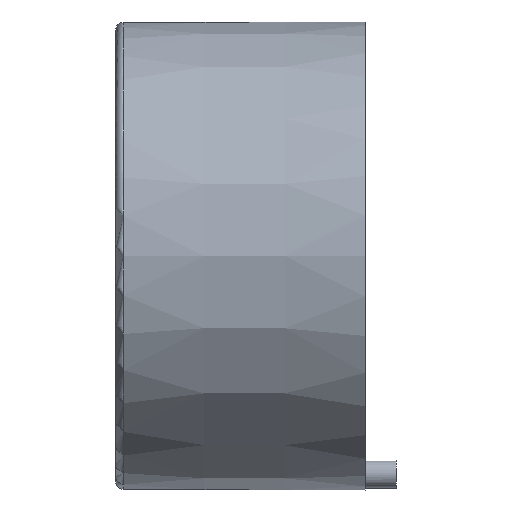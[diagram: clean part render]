
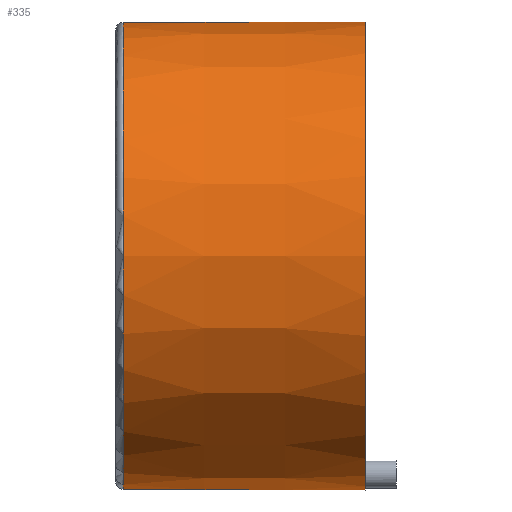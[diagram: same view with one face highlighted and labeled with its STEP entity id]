
A CAD part, front view. The second image highlights one B-rep face of the part: STEP entity #335.
In plain terms, the highlighted conical face has half-angle 0.1 degrees and reference radius 14.973 mm.
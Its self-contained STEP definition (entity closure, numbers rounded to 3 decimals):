
#248=CARTESIAN_POINT('',(0.499,0.,0.0));
#249=DIRECTION('',(1.0,0.,0.0));
#250=DIRECTION('',(0.0,1.0,0.0));
#251=AXIS2_PLACEMENT_3D('',#248,#249,#250);
#252=CONICAL_SURFACE('',#251,14.973,0.1);
#253=CARTESIAN_POINT('',(0.499,14.94,-1.0));
#254=VERTEX_POINT('',#253);
#255=CARTESIAN_POINT('',(0.499,14.94,1.));
#256=VERTEX_POINT('',#255);
#257=CARTESIAN_POINT('',(0.499,0.,0.0));
#258=DIRECTION('',(-1.0,0.0,0.0));
#259=DIRECTION('',(0.0,1.0,0.0));
#260=AXIS2_PLACEMENT_3D('',#257,#258,#259);
#261=CIRCLE('',#260,14.973);
#262=EDGE_CURVE('',#254,#256,#261,.T.);
#263=ORIENTED_EDGE('',*,*,#262,.F.);
#264=CARTESIAN_POINT('',(4.,14.946,-1.));
#265=VERTEX_POINT('',#264);
#266=CARTESIAN_POINT('',(4.,14.946,-1.));
#267=CARTESIAN_POINT('',(2.249,14.943,-1.));
#268=CARTESIAN_POINT('',(0.499,14.94,-1.0));
#276=(BOUNDED_CURVE()B_SPLINE_CURVE(2,(#266,#267,#268),.UNSPECIFIED.,.F.,.U.)B_SPLINE_CURVE_WITH_KNOTS((3,3),(645.056,645.334),.UNSPECIFIED.)CURVE()GEOMETRIC_REPRESENTATION_ITEM()RATIONAL_B_SPLINE_CURVE((11.922,11.924,11.927))REPRESENTATION_ITEM(''));
#277=EDGE_CURVE('',#254,#265,#276,.F.);
#278=ORIENTED_EDGE('',*,*,#277,.T.);
#279=CARTESIAN_POINT('',(5.,14.981,0.));
#280=VERTEX_POINT('',#279);
#281=CARTESIAN_POINT('',(4.,14.946,-1.));
#282=CARTESIAN_POINT('',(4.126,14.946,-1.));
#283=CARTESIAN_POINT('',(4.259,14.948,-0.975));
#284=CARTESIAN_POINT('',(4.506,14.955,-0.873));
#285=CARTESIAN_POINT('',(4.618,14.959,-0.796));
#286=CARTESIAN_POINT('',(4.796,14.968,-0.618));
#287=CARTESIAN_POINT('',(4.873,14.973,-0.506));
#288=CARTESIAN_POINT('',(4.975,14.979,-0.26));
#289=CARTESIAN_POINT('',(5.,14.981,-0.126));
#290=CARTESIAN_POINT('',(5.,14.981,0.));
#291=B_SPLINE_CURVE_WITH_KNOTS('',3,(#281,#282,#283,#284,#285,#286,#287,#288,#289,#290),.UNSPECIFIED.,.F.,.U.,(4,2,2,2,4),(0.301,0.339,0.377,0.414,0.452),.UNSPECIFIED.);
#292=EDGE_CURVE('',#265,#280,#291,.T.);
#293=ORIENTED_EDGE('',*,*,#292,.T.);
#294=CARTESIAN_POINT('',(4.,14.946,1.));
#295=VERTEX_POINT('',#294);
#296=CARTESIAN_POINT('',(5.,14.981,0.));
#297=CARTESIAN_POINT('',(5.,14.981,0.126));
#298=CARTESIAN_POINT('',(4.975,14.979,0.26));
#299=CARTESIAN_POINT('',(4.873,14.973,0.506));
#300=CARTESIAN_POINT('',(4.796,14.968,0.618));
#301=CARTESIAN_POINT('',(4.618,14.959,0.796));
#302=CARTESIAN_POINT('',(4.506,14.955,0.873));
#303=CARTESIAN_POINT('',(4.259,14.948,0.975));
#304=CARTESIAN_POINT('',(4.126,14.946,1.));
#305=CARTESIAN_POINT('',(4.,14.946,1.0));
#306=B_SPLINE_CURVE_WITH_KNOTS('',3,(#296,#297,#298,#299,#300,#301,#302,#303,#304,#305),.UNSPECIFIED.,.F.,.U.,(4,2,2,2,4),(0.452,0.49,0.528,0.565,0.603),.UNSPECIFIED.);
#307=EDGE_CURVE('',#280,#295,#306,.T.);
#308=ORIENTED_EDGE('',*,*,#307,.T.);
#309=CARTESIAN_POINT('',(0.499,14.94,1.));
#310=CARTESIAN_POINT('',(2.249,14.943,1.));
#311=CARTESIAN_POINT('',(4.,14.946,1.));
#319=(BOUNDED_CURVE()B_SPLINE_CURVE(2,(#309,#310,#311),.UNSPECIFIED.,.F.,.U.)B_SPLINE_CURVE_WITH_KNOTS((3,3),(20955.786,20956.064),.UNSPECIFIED.)CURVE()GEOMETRIC_REPRESENTATION_ITEM()RATIONAL_B_SPLINE_CURVE((11.927,11.924,11.922))REPRESENTATION_ITEM(''));
#320=EDGE_CURVE('',#295,#256,#319,.F.);
#321=ORIENTED_EDGE('',*,*,#320,.T.);
#322=EDGE_LOOP('',(#263,#278,#293,#308,#321));
#323=FACE_OUTER_BOUND('',#322,.T.);
#324=CARTESIAN_POINT('',(16.,-15.,0.));
#325=VERTEX_POINT('',#324);
#326=CARTESIAN_POINT('',(16.,0.,0.0));
#327=DIRECTION('',(-1.0,0.0,0.0));
#328=DIRECTION('',(0.0,1.0,0.0));
#329=AXIS2_PLACEMENT_3D('',#326,#327,#328);
#330=CIRCLE('',#329,15.);
#331=EDGE_CURVE('',#325,#325,#330,.F.);
#332=ORIENTED_EDGE('',*,*,#331,.F.);
#333=EDGE_LOOP('',(#332));
#334=FACE_BOUND('',#333,.T.);
#335=ADVANCED_FACE('',(#323,#334),#252,.T.);
